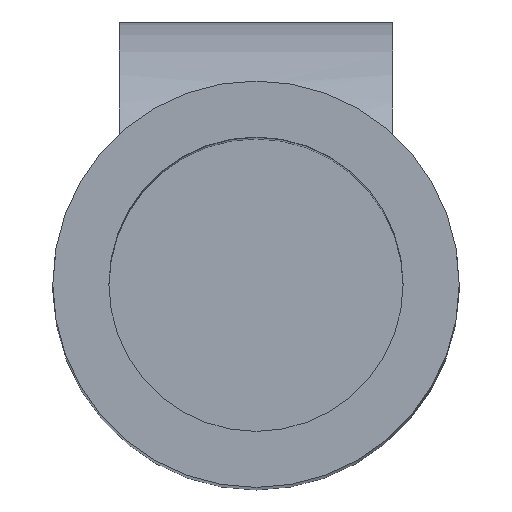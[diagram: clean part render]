
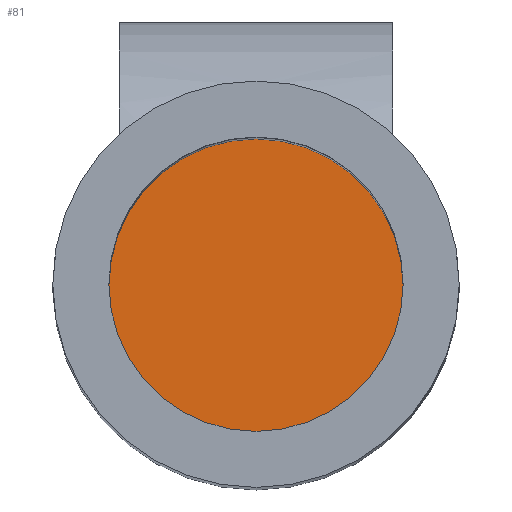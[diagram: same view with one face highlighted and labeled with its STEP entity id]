
A CAD part, top view. The second image highlights one B-rep face of the part: STEP entity #81.
In plain terms, the highlighted planar face has unit normal (0, 0, 1).
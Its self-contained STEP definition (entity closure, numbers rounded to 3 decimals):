
#81=ADVANCED_FACE('',(#162),#163,.T.);
#162=FACE_OUTER_BOUND('',#242,.T.);
#163=PLANE('',#243);
#242=EDGE_LOOP('',(#508,#509));
#243=AXIS2_PLACEMENT_3D('',#510,#511,#512);
#508=ORIENTED_EDGE('',*,*,#613,.T.);
#509=ORIENTED_EDGE('',*,*,#626,.T.);
#510=CARTESIAN_POINT('',(3.856,0.527,30.7));
#511=DIRECTION('',(0.,0.,1.0));
#512=DIRECTION('',(0.,1.0,0.));
#613=EDGE_CURVE('',#728,#729,#730,.T.);
#626=EDGE_CURVE('',#729,#728,#745,.T.);
#728=VERTEX_POINT('',#1249);
#729=VERTEX_POINT('',#1250);
#730=CIRCLE('',#1251,2.1);
#745=CIRCLE('',#1319,2.1);
#1249=CARTESIAN_POINT('',(0.8,2.9,30.7));
#1250=CARTESIAN_POINT('',(5.,2.9,30.7));
#1251=AXIS2_PLACEMENT_3D('',#1380,#1381,#1382);
#1319=AXIS2_PLACEMENT_3D('',#1391,#1392,#1393);
#1380=CARTESIAN_POINT('',(2.9,2.9,30.7));
#1381=DIRECTION('',(0.,0.,1.0));
#1382=DIRECTION('',(1.0,0.,0.));
#1391=CARTESIAN_POINT('',(2.9,2.9,30.7));
#1392=DIRECTION('',(0.,0.,1.0));
#1393=DIRECTION('',(1.0,0.,0.));
